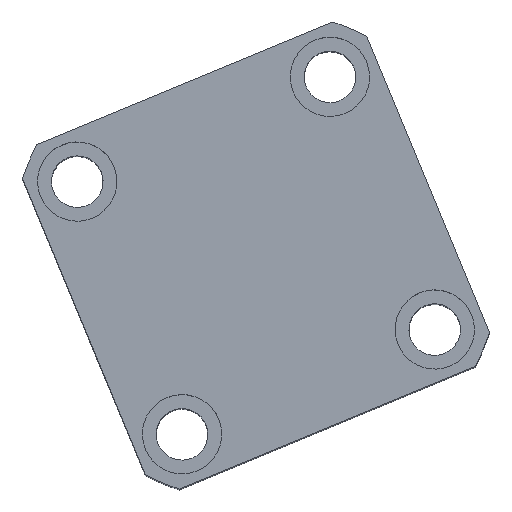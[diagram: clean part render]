
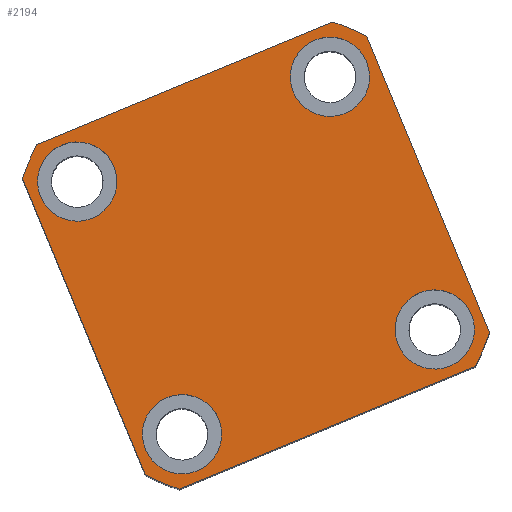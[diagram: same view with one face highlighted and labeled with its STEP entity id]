
A CAD part, top view. The second image highlights one B-rep face of the part: STEP entity #2194.
In plain terms, the highlighted planar face has unit normal (0, 0, 1) as drawn and (0, 0, -1) by its records, which use the part's own axes.
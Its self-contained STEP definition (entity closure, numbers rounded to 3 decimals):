
#349 = VERTEX_POINT ( 'NONE', #10723 ) ;
#460 = EDGE_CURVE ( 'NONE', #13436, #6085, #16744, .T. ) ;
#834 = CARTESIAN_POINT ( 'NONE',  ( 40.435, -47., 0. ) ) ;
#842 = CIRCLE ( 'NONE', #17028, 62. ) ;
#1143 = DIRECTION ( 'NONE',  ( -1., 0., 0. ) ) ;
#1244 = DIRECTION ( 'NONE',  ( 0., 0., -1. ) ) ;
#1286 = CIRCLE ( 'NONE', #3981, 10. ) ;
#1321 = DIRECTION ( 'NONE',  ( 0., 0., -1. ) ) ;
#1426 = ORIENTED_EDGE ( 'NONE', *, *, #6606, .F. ) ;
#1654 = ORIENTED_EDGE ( 'NONE', *, *, #14082, .F. ) ;
#1912 = VERTEX_POINT ( 'NONE', #14094 ) ;
#1987 = CARTESIAN_POINT ( 'NONE',  ( 44.5, 34.5, 0. ) ) ;
#2194 = ADVANCED_FACE ( 'NONE', ( #9680, #7760, #4092, #2404, #16489 ), #6229, .F. ) ;
#2404 = FACE_BOUND ( 'NONE', #16834, .T. ) ;
#2570 = CARTESIAN_POINT ( 'NONE',  ( 0., 0., 0. ) ) ;
#2844 = ORIENTED_EDGE ( 'NONE', *, *, #11686, .F. ) ;
#3743 = DIRECTION ( 'NONE',  ( 0., 0., 1. ) ) ;
#3768 = CIRCLE ( 'NONE', #13657, 10. ) ;
#3862 = AXIS2_PLACEMENT_3D ( 'NONE', #7662, #17208, #9042 ) ;
#3933 = DIRECTION ( 'NONE',  ( 1., 0., 0. ) ) ;
#3964 = EDGE_CURVE ( 'NONE', #9797, #5682, #3768, .T. ) ;
#3981 = AXIS2_PLACEMENT_3D ( 'NONE', #15015, #6825, #16380 ) ;
#4000 = EDGE_CURVE ( 'NONE', #8920, #17469, #11061, .T. ) ;
#4037 = LINE ( 'NONE', #12648, #7280 ) ;
#4092 = FACE_BOUND ( 'NONE', #12670, .T. ) ;
#4228 = CARTESIAN_POINT ( 'NONE',  ( -47., 47., 0. ) ) ;
#4436 = DIRECTION ( 'NONE',  ( 1., 0., 0. ) ) ;
#4600 = ORIENTED_EDGE ( 'NONE', *, *, #14633, .F. ) ;
#4909 = CIRCLE ( 'NONE', #6619, 62. ) ;
#5043 = ORIENTED_EDGE ( 'NONE', *, *, #13299, .F. ) ;
#5046 = EDGE_LOOP ( 'NONE', ( #5043, #7707 ) ) ;
#5143 = CIRCLE ( 'NONE', #6784, 10. ) ;
#5171 = CARTESIAN_POINT ( 'NONE',  ( -34.5, -34.5, 0. ) ) ;
#5302 = CARTESIAN_POINT ( 'NONE',  ( 24.5, 34.5, 0. ) ) ;
#5682 = VERTEX_POINT ( 'NONE', #13294 ) ;
#5768 = ORIENTED_EDGE ( 'NONE', *, *, #15083, .F. ) ;
#6085 = VERTEX_POINT ( 'NONE', #6740 ) ;
#6229 = PLANE ( 'NONE',  #6996 ) ;
#6248 = DIRECTION ( 'NONE',  ( 0., 0., 1. ) ) ;
#6303 = AXIS2_PLACEMENT_3D ( 'NONE', #16158, #7981, #17531 ) ;
#6457 = ORIENTED_EDGE ( 'NONE', *, *, #16447, .F. ) ;
#6470 = DIRECTION ( 'NONE',  ( 0., 0., 1. ) ) ;
#6543 = DIRECTION ( 'NONE',  ( -1., 0., 0. ) ) ;
#6606 = EDGE_CURVE ( 'NONE', #17469, #8920, #11248, .T. ) ;
#6619 = AXIS2_PLACEMENT_3D ( 'NONE', #14657, #6470, #16010 ) ;
#6740 = CARTESIAN_POINT ( 'NONE',  ( 47., 40.435, 0. ) ) ;
#6784 = AXIS2_PLACEMENT_3D ( 'NONE', #17505, #9346, #1143 ) ;
#6813 = CARTESIAN_POINT ( 'NONE',  ( 34.5, 34.5, 0. ) ) ;
#6825 = DIRECTION ( 'NONE',  ( 0., 0., -1. ) ) ;
#6965 = ORIENTED_EDGE ( 'NONE', *, *, #16587, .F. ) ;
#6996 = AXIS2_PLACEMENT_3D ( 'NONE', #8977, #13044, #14411 ) ;
#7025 = AXIS2_PLACEMENT_3D ( 'NONE', #5171, #14728, #6543 ) ;
#7280 = VECTOR ( 'NONE', #4436, 1000. ) ;
#7431 = EDGE_CURVE ( 'NONE', #6085, #1912, #15520, .T. ) ;
#7524 = VERTEX_POINT ( 'NONE', #10641 ) ;
#7662 = CARTESIAN_POINT ( 'NONE',  ( 34.5, 34.5, 0. ) ) ;
#7694 = CIRCLE ( 'NONE', #9385, 10. ) ;
#7707 = ORIENTED_EDGE ( 'NONE', *, *, #11570, .F. ) ;
#7760 = FACE_BOUND ( 'NONE', #5046, .T. ) ;
#7937 = CARTESIAN_POINT ( 'NONE',  ( 44.5, -34.5, 0. ) ) ;
#7981 = DIRECTION ( 'NONE',  ( 0., 0., -1. ) ) ;
#8014 = EDGE_LOOP ( 'NONE', ( #12295, #12008 ) ) ;
#8196 = DIRECTION ( 'NONE',  ( -1., 0., 0. ) ) ;
#8339 = CIRCLE ( 'NONE', #9557, 62. ) ;
#8742 = VERTEX_POINT ( 'NONE', #9945 ) ;
#8920 = VERTEX_POINT ( 'NONE', #5302 ) ;
#8977 = CARTESIAN_POINT ( 'NONE',  ( 0., 0., 0. ) ) ;
#9042 = DIRECTION ( 'NONE',  ( -1., 0., 0. ) ) ;
#9167 = ORIENTED_EDGE ( 'NONE', *, *, #17060, .F. ) ;
#9346 = DIRECTION ( 'NONE',  ( 0., 0., -1. ) ) ;
#9385 = AXIS2_PLACEMENT_3D ( 'NONE', #9451, #1244, #10830 ) ;
#9433 = LINE ( 'NONE', #15867, #16683 ) ;
#9448 = VERTEX_POINT ( 'NONE', #13863 ) ;
#9451 = CARTESIAN_POINT ( 'NONE',  ( -34.5, 34.5, 0. ) ) ;
#9505 = CARTESIAN_POINT ( 'NONE',  ( -40.435, 47., 0. ) ) ;
#9522 = CARTESIAN_POINT ( 'NONE',  ( 34.5, -34.5, 0. ) ) ;
#9543 = VERTEX_POINT ( 'NONE', #834 ) ;
#9557 = AXIS2_PLACEMENT_3D ( 'NONE', #2570, #12155, #3933 ) ;
#9680 = FACE_BOUND ( 'NONE', #8014, .T. ) ;
#9797 = VERTEX_POINT ( 'NONE', #7937 ) ;
#9945 = CARTESIAN_POINT ( 'NONE',  ( -40.435, -47., 0. ) ) ;
#10099 = EDGE_LOOP ( 'NONE', ( #14526, #17245, #2844, #5768, #1654, #4600, #6457, #15074 ) ) ;
#10211 = CARTESIAN_POINT ( 'NONE',  ( -44.5, 34.5, 0. ) ) ;
#10314 = ORIENTED_EDGE ( 'NONE', *, *, #4000, .F. ) ;
#10463 = EDGE_CURVE ( 'NONE', #1912, #15727, #9433, .T. ) ;
#10641 = CARTESIAN_POINT ( 'NONE',  ( -44.5, -34.5, 0. ) ) ;
#10723 = CARTESIAN_POINT ( 'NONE',  ( -47., -40.435, 0. ) ) ;
#10830 = DIRECTION ( 'NONE',  ( -1., 0., 0. ) ) ;
#10890 = EDGE_CURVE ( 'NONE', #5682, #9797, #1286, .T. ) ;
#10914 = DIRECTION ( 'NONE',  ( -1., 0., 0. ) ) ;
#11061 = CIRCLE ( 'NONE', #14589, 10. ) ;
#11248 = CIRCLE ( 'NONE', #3862, 10. ) ;
#11570 = EDGE_CURVE ( 'NONE', #15060, #7524, #5143, .T. ) ;
#11644 = DIRECTION ( 'NONE',  ( 0., 1., 0. ) ) ;
#11686 = EDGE_CURVE ( 'NONE', #9543, #13436, #8339, .T. ) ;
#11701 = CARTESIAN_POINT ( 'NONE',  ( 47., 47., 0. ) ) ;
#11955 = CARTESIAN_POINT ( 'NONE',  ( 0., 0., 0. ) ) ;
#11979 = VERTEX_POINT ( 'NONE', #12631 ) ;
#12008 = ORIENTED_EDGE ( 'NONE', *, *, #3964, .F. ) ;
#12155 = DIRECTION ( 'NONE',  ( 0., 0., 1. ) ) ;
#12263 = VECTOR ( 'NONE', #11644, 1000. ) ;
#12295 = ORIENTED_EDGE ( 'NONE', *, *, #10890, .F. ) ;
#12388 = LINE ( 'NONE', #4228, #15999 ) ;
#12445 = DIRECTION ( 'NONE',  ( 0., -1., 0. ) ) ;
#12631 = CARTESIAN_POINT ( 'NONE',  ( -24.5, 34.5, 0. ) ) ;
#12648 = CARTESIAN_POINT ( 'NONE',  ( -47., -47., 0. ) ) ;
#12670 = EDGE_LOOP ( 'NONE', ( #6965, #9167 ) ) ;
#13044 = DIRECTION ( 'NONE',  ( 0., 0., 1. ) ) ;
#13294 = CARTESIAN_POINT ( 'NONE',  ( 24.5, -34.5, 0. ) ) ;
#13299 = EDGE_CURVE ( 'NONE', #7524, #15060, #16434, .T. ) ;
#13321 = DIRECTION ( 'NONE',  ( 1., 0., 0. ) ) ;
#13436 = VERTEX_POINT ( 'NONE', #17463 ) ;
#13657 = AXIS2_PLACEMENT_3D ( 'NONE', #9522, #1321, #10914 ) ;
#13863 = CARTESIAN_POINT ( 'NONE',  ( -47., 40.435, 0. ) ) ;
#13946 = CARTESIAN_POINT ( 'NONE',  ( -24.5, -34.5, 0. ) ) ;
#13996 = VERTEX_POINT ( 'NONE', #10211 ) ;
#14082 = EDGE_CURVE ( 'NONE', #349, #8742, #842, .T. ) ;
#14094 = CARTESIAN_POINT ( 'NONE',  ( 40.435, 47., 0. ) ) ;
#14335 = DIRECTION ( 'NONE',  ( -1., 0., 0. ) ) ;
#14411 = DIRECTION ( 'NONE',  ( 1., 0., 0. ) ) ;
#14429 = CARTESIAN_POINT ( 'NONE',  ( 0., 0., 0. ) ) ;
#14526 = ORIENTED_EDGE ( 'NONE', *, *, #7431, .F. ) ;
#14589 = AXIS2_PLACEMENT_3D ( 'NONE', #6813, #16368, #8196 ) ;
#14633 = EDGE_CURVE ( 'NONE', #9448, #349, #12388, .T. ) ;
#14657 = CARTESIAN_POINT ( 'NONE',  ( 0., 0., 0. ) ) ;
#14728 = DIRECTION ( 'NONE',  ( 0., 0., -1. ) ) ;
#15015 = CARTESIAN_POINT ( 'NONE',  ( 34.5, -34.5, 0. ) ) ;
#15060 = VERTEX_POINT ( 'NONE', #13946 ) ;
#15074 = ORIENTED_EDGE ( 'NONE', *, *, #10463, .F. ) ;
#15083 = EDGE_CURVE ( 'NONE', #8742, #9543, #4037, .T. ) ;
#15520 = CIRCLE ( 'NONE', #15783, 62. ) ;
#15727 = VERTEX_POINT ( 'NONE', #9505 ) ;
#15783 = AXIS2_PLACEMENT_3D ( 'NONE', #11955, #3743, #13321 ) ;
#15790 = DIRECTION ( 'NONE',  ( 1., 0., 0. ) ) ;
#15867 = CARTESIAN_POINT ( 'NONE',  ( -47., 47., 0. ) ) ;
#15999 = VECTOR ( 'NONE', #12445, 1000. ) ;
#16010 = DIRECTION ( 'NONE',  ( 1., 0., 0. ) ) ;
#16158 = CARTESIAN_POINT ( 'NONE',  ( -34.5, 34.5, 0. ) ) ;
#16368 = DIRECTION ( 'NONE',  ( 0., 0., -1. ) ) ;
#16380 = DIRECTION ( 'NONE',  ( -1., 0., 0. ) ) ;
#16415 = CIRCLE ( 'NONE', #6303, 10. ) ;
#16434 = CIRCLE ( 'NONE', #7025, 10. ) ;
#16447 = EDGE_CURVE ( 'NONE', #15727, #9448, #4909, .T. ) ;
#16489 = FACE_OUTER_BOUND ( 'NONE', #10099, .T. ) ;
#16587 = EDGE_CURVE ( 'NONE', #13996, #11979, #7694, .T. ) ;
#16683 = VECTOR ( 'NONE', #14335, 1000. ) ;
#16744 = LINE ( 'NONE', #11701, #12263 ) ;
#16834 = EDGE_LOOP ( 'NONE', ( #10314, #1426 ) ) ;
#17028 = AXIS2_PLACEMENT_3D ( 'NONE', #14429, #6248, #15790 ) ;
#17060 = EDGE_CURVE ( 'NONE', #11979, #13996, #16415, .T. ) ;
#17208 = DIRECTION ( 'NONE',  ( 0., 0., -1. ) ) ;
#17245 = ORIENTED_EDGE ( 'NONE', *, *, #460, .F. ) ;
#17463 = CARTESIAN_POINT ( 'NONE',  ( 47., -40.435, 0. ) ) ;
#17469 = VERTEX_POINT ( 'NONE', #1987 ) ;
#17505 = CARTESIAN_POINT ( 'NONE',  ( -34.5, -34.5, 0. ) ) ;
#17531 = DIRECTION ( 'NONE',  ( -1., 0., 0. ) ) ;
